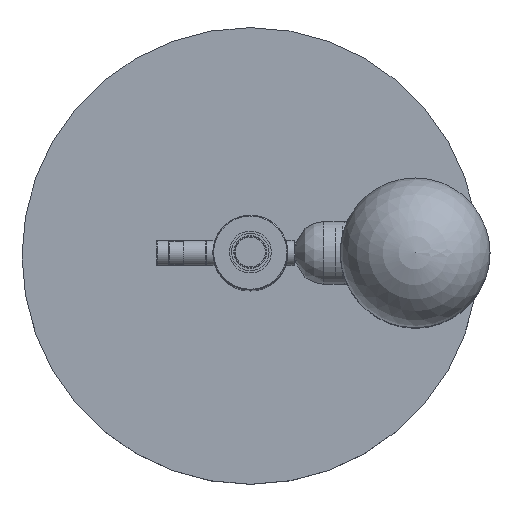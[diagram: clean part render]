
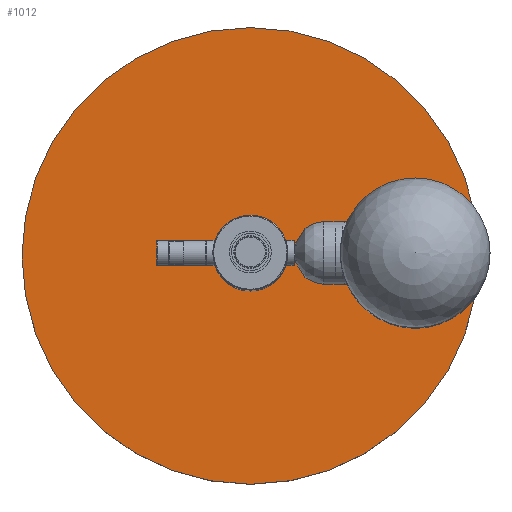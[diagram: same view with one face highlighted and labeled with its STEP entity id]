
A CAD part, top view. The second image highlights one B-rep face of the part: STEP entity #1012.
In plain terms, the highlighted planar face has unit normal (0, 0, 1).
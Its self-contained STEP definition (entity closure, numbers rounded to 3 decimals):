
#208=FACE_OUTER_BOUND('',#297,.T.);
#297=EDGE_LOOP('',(#703));
#398=CIRCLE('',#1137,152.5);
#480=VERTEX_POINT('',#1691);
#567=EDGE_CURVE('',#480,#480,#398,.T.);
#703=ORIENTED_EDGE('',*,*,#567,.T.);
#975=PLANE('',#1136);
#1012=ADVANCED_FACE('',(#208),#975,.F.);
#1136=AXIS2_PLACEMENT_3D('',#1690,#1308,#1309);
#1137=AXIS2_PLACEMENT_3D('',#1692,#1310,#1311);
#1308=DIRECTION('center_axis',(0.,0.,
-1.));
#1309=DIRECTION('ref_axis',(0.,1.,0.));
#1310=DIRECTION('center_axis',(0.,0.,
1.));
#1311=DIRECTION('ref_axis',(0.,-1.,0.));
#1690=CARTESIAN_POINT('Origin',(0.,0.,
44.));
#1691=CARTESIAN_POINT('',(0.,152.5,44.));
#1692=CARTESIAN_POINT('Origin',(0.,0.,
44.));
